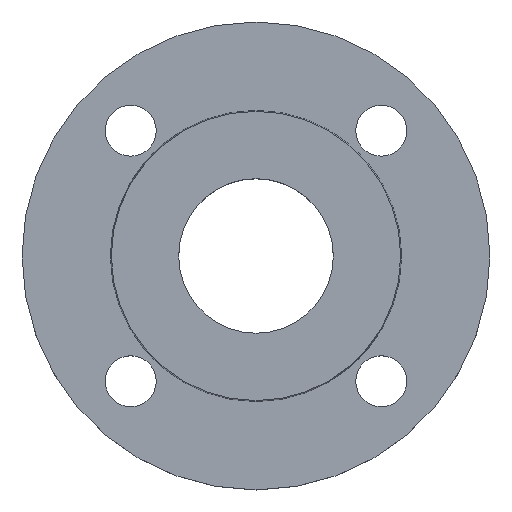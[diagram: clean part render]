
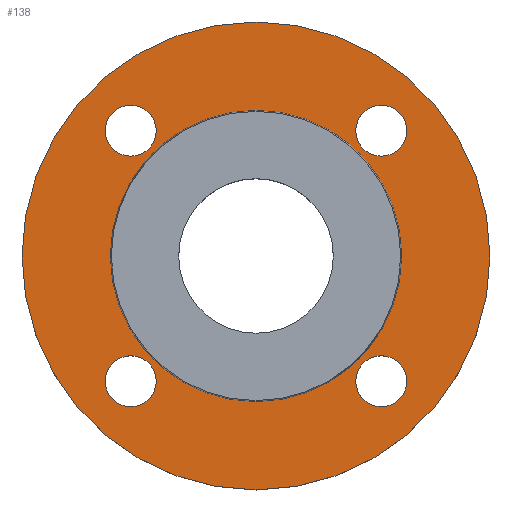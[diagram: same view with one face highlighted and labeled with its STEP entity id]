
A CAD part, top view. The second image highlights one B-rep face of the part: STEP entity #138.
In plain terms, the highlighted planar face has unit normal (0, 0, 1).
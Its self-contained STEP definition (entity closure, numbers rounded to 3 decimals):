
#13 = EDGE_CURVE ( 'NONE', #301, #689, #436, .T. ) ;
#36 = CIRCLE ( 'NONE', #40, 9. ) ;
#40 = AXIS2_PLACEMENT_3D ( 'NONE', #555, #553, #552 ) ;
#50 = DIRECTION ( 'NONE',  ( 0., 0., -1. ) ) ;
#54 = EDGE_CURVE ( 'NONE', #715, #707, #36, .T. ) ;
#90 = CIRCLE ( 'NONE', #362, 82.5 ) ;
#91 = EDGE_CURVE ( 'NONE', #757, #679, #90, .T. ) ;
#112 = DIRECTION ( 'NONE',  ( 1., 0., 0. ) ) ;
#113 = DIRECTION ( 'NONE',  ( 0., 0., -1. ) ) ;
#115 = CARTESIAN_POINT ( 'NONE',  ( -44.194, 44.194, -2. ) ) ;
#116 = AXIS2_PLACEMENT_3D ( 'NONE', #524, #523, #522 ) ;
#132 = CIRCLE ( 'NONE', #136, 9. ) ;
#136 = AXIS2_PLACEMENT_3D ( 'NONE', #509, #508, #507 ) ;
#138 = ADVANCED_FACE ( 'NONE', ( #533, #532, #531, #530, #529, #528 ), #525, .T. ) ;
#145 = EDGE_CURVE ( 'NONE', #707, #715, #132, .T. ) ;
#152 = CIRCLE ( 'NONE', #153, 9. ) ;
#153 = AXIS2_PLACEMENT_3D ( 'NONE', #498, #494, #492 ) ;
#159 = DIRECTION ( 'NONE',  ( 1., 0., 0. ) ) ;
#160 = DIRECTION ( 'NONE',  ( 0., 0., -1. ) ) ;
#161 = CARTESIAN_POINT ( 'NONE',  ( -44.194, -44.194, -2. ) ) ;
#169 = EDGE_CURVE ( 'NONE', #299, #681, #152, .T. ) ;
#201 = DIRECTION ( 'NONE',  ( 1., 0., 0. ) ) ;
#202 = DIRECTION ( 'NONE',  ( 0., 0., -1. ) ) ;
#205 = CARTESIAN_POINT ( 'NONE',  ( 44.194, -44.194, -2. ) ) ;
#208 = CIRCLE ( 'NONE', #211, 9. ) ;
#211 = AXIS2_PLACEMENT_3D ( 'NONE', #414, #411, #408 ) ;
#220 = DIRECTION ( 'NONE',  ( -1., 0., 0. ) ) ;
#221 = DIRECTION ( 'NONE',  ( 0., 0., -1. ) ) ;
#222 = CIRCLE ( 'NONE', #225, 51.353 ) ;
#223 = CARTESIAN_POINT ( 'NONE',  ( 0., 0., -2. ) ) ;
#225 = AXIS2_PLACEMENT_3D ( 'NONE', #223, #221, #220 ) ;
#236 = CIRCLE ( 'NONE', #238, 9. ) ;
#238 = AXIS2_PLACEMENT_3D ( 'NONE', #205, #202, #201 ) ;
#251 = EDGE_CURVE ( 'NONE', #758, #644, #208, .T. ) ;
#258 = AXIS2_PLACEMENT_3D ( 'NONE', #161, #160, #159 ) ;
#273 = CIRCLE ( 'NONE', #276, 9. ) ;
#276 = AXIS2_PLACEMENT_3D ( 'NONE', #115, #113, #112 ) ;
#287 = VERTEX_POINT ( 'NONE', #407 ) ;
#291 = VERTEX_POINT ( 'NONE', #402 ) ;
#299 = VERTEX_POINT ( 'NONE', #397 ) ;
#301 = VERTEX_POINT ( 'NONE', #396 ) ;
#303 = ORIENTED_EDGE ( 'NONE', *, *, #13, .T. ) ;
#349 = CARTESIAN_POINT ( 'NONE',  ( -44.194, 44.194, -2. ) ) ;
#361 = CIRCLE ( 'NONE', #258, 9. ) ;
#362 = AXIS2_PLACEMENT_3D ( 'NONE', #548, #547, #546 ) ;
#363 = DIRECTION ( 'NONE',  ( -1., 0., 0. ) ) ;
#379 = CIRCLE ( 'NONE', #382, 9. ) ;
#382 = AXIS2_PLACEMENT_3D ( 'NONE', #349, #50, #554 ) ;
#396 = CARTESIAN_POINT ( 'NONE',  ( -51.353, 0., -2. ) ) ;
#397 = CARTESIAN_POINT ( 'NONE',  ( 35.194, -44.194, -2. ) ) ;
#402 = CARTESIAN_POINT ( 'NONE',  ( -35.194, 44.194, -2. ) ) ;
#405 = EDGE_CURVE ( 'NONE', #689, #301, #222, .T. ) ;
#407 = CARTESIAN_POINT ( 'NONE',  ( -53.194, 44.194, -2. ) ) ;
#408 = DIRECTION ( 'NONE',  ( 1., 0., 0. ) ) ;
#411 = DIRECTION ( 'NONE',  ( 0., 0., -1. ) ) ;
#412 = EDGE_CURVE ( 'NONE', #681, #299, #236, .T. ) ;
#414 = CARTESIAN_POINT ( 'NONE',  ( -44.194, -44.194, -2. ) ) ;
#428 = CIRCLE ( 'NONE', #434, 82.5 ) ;
#434 = AXIS2_PLACEMENT_3D ( 'NONE', #476, #461, #363 ) ;
#436 = CIRCLE ( 'NONE', #446, 51.353 ) ;
#446 = AXIS2_PLACEMENT_3D ( 'NONE', #575, #574, #573 ) ;
#455 = EDGE_CURVE ( 'NONE', #644, #758, #361, .T. ) ;
#461 = DIRECTION ( 'NONE',  ( 0., 0., -1. ) ) ;
#476 = CARTESIAN_POINT ( 'NONE',  ( 0., 0., -2. ) ) ;
#483 = EDGE_CURVE ( 'NONE', #291, #287, #273, .T. ) ;
#492 = DIRECTION ( 'NONE',  ( 1., 0., 0. ) ) ;
#494 = DIRECTION ( 'NONE',  ( 0., 0., -1. ) ) ;
#498 = CARTESIAN_POINT ( 'NONE',  ( 44.194, -44.194, -2. ) ) ;
#507 = DIRECTION ( 'NONE',  ( 1., 0., 0. ) ) ;
#508 = DIRECTION ( 'NONE',  ( 0., 0., -1. ) ) ;
#509 = CARTESIAN_POINT ( 'NONE',  ( 44.194, 44.194, -2. ) ) ;
#522 = DIRECTION ( 'NONE',  ( 1., 0., 0. ) ) ;
#523 = DIRECTION ( 'NONE',  ( 0., 0., 1. ) ) ;
#524 = CARTESIAN_POINT ( 'NONE',  ( 51.353, 0., -2. ) ) ;
#525 = PLANE ( 'NONE',  #116 ) ;
#528 = FACE_OUTER_BOUND ( 'NONE', #663, .T. ) ;
#529 = FACE_BOUND ( 'NONE', #659, .T. ) ;
#530 = FACE_BOUND ( 'NONE', #677, .T. ) ;
#531 = FACE_BOUND ( 'NONE', #607, .T. ) ;
#532 = FACE_BOUND ( 'NONE', #652, .T. ) ;
#533 = FACE_BOUND ( 'NONE', #658, .T. ) ;
#546 = DIRECTION ( 'NONE',  ( -1., 0., 0. ) ) ;
#547 = DIRECTION ( 'NONE',  ( 0., 0., -1. ) ) ;
#548 = CARTESIAN_POINT ( 'NONE',  ( 0., 0., -2. ) ) ;
#552 = DIRECTION ( 'NONE',  ( 1., 0., 0. ) ) ;
#553 = DIRECTION ( 'NONE',  ( 0., 0., -1. ) ) ;
#554 = DIRECTION ( 'NONE',  ( 1., 0., 0. ) ) ;
#555 = CARTESIAN_POINT ( 'NONE',  ( 44.194, 44.194, -2. ) ) ;
#573 = DIRECTION ( 'NONE',  ( -1., 0., 0. ) ) ;
#574 = DIRECTION ( 'NONE',  ( 0., 0., -1. ) ) ;
#575 = CARTESIAN_POINT ( 'NONE',  ( 0., 0., -2. ) ) ;
#607 = EDGE_LOOP ( 'NONE', ( #743, #740 ) ) ;
#633 = ORIENTED_EDGE ( 'NONE', *, *, #91, .F. ) ;
#634 = ORIENTED_EDGE ( 'NONE', *, *, #824, .F. ) ;
#641 = EDGE_CURVE ( 'NONE', #287, #291, #379, .T. ) ;
#644 = VERTEX_POINT ( 'NONE', #751 ) ;
#652 = EDGE_LOOP ( 'NONE', ( #802, #755 ) ) ;
#658 = EDGE_LOOP ( 'NONE', ( #748, #774 ) ) ;
#659 = EDGE_LOOP ( 'NONE', ( #303, #783 ) ) ;
#663 = EDGE_LOOP ( 'NONE', ( #634, #633 ) ) ;
#677 = EDGE_LOOP ( 'NONE', ( #799, #807 ) ) ;
#679 = VERTEX_POINT ( 'NONE', #795 ) ;
#681 = VERTEX_POINT ( 'NONE', #779 ) ;
#682 = CARTESIAN_POINT ( 'NONE',  ( -82.5, 0., -2. ) ) ;
#684 = CARTESIAN_POINT ( 'NONE',  ( -53.194, -44.194, -2. ) ) ;
#689 = VERTEX_POINT ( 'NONE', #788 ) ;
#707 = VERTEX_POINT ( 'NONE', #741 ) ;
#715 = VERTEX_POINT ( 'NONE', #742 ) ;
#740 = ORIENTED_EDGE ( 'NONE', *, *, #641, .T. ) ;
#741 = CARTESIAN_POINT ( 'NONE',  ( 53.194, 44.194, -2. ) ) ;
#742 = CARTESIAN_POINT ( 'NONE',  ( 35.194, 44.194, -2. ) ) ;
#743 = ORIENTED_EDGE ( 'NONE', *, *, #483, .T. ) ;
#748 = ORIENTED_EDGE ( 'NONE', *, *, #412, .T. ) ;
#751 = CARTESIAN_POINT ( 'NONE',  ( -35.194, -44.194, -2. ) ) ;
#755 = ORIENTED_EDGE ( 'NONE', *, *, #251, .T. ) ;
#757 = VERTEX_POINT ( 'NONE', #682 ) ;
#758 = VERTEX_POINT ( 'NONE', #684 ) ;
#774 = ORIENTED_EDGE ( 'NONE', *, *, #169, .T. ) ;
#779 = CARTESIAN_POINT ( 'NONE',  ( 53.194, -44.194, -2. ) ) ;
#783 = ORIENTED_EDGE ( 'NONE', *, *, #405, .T. ) ;
#788 = CARTESIAN_POINT ( 'NONE',  ( 51.353, 0., -2. ) ) ;
#795 = CARTESIAN_POINT ( 'NONE',  ( 82.5, 0., -2. ) ) ;
#799 = ORIENTED_EDGE ( 'NONE', *, *, #145, .T. ) ;
#802 = ORIENTED_EDGE ( 'NONE', *, *, #455, .T. ) ;
#807 = ORIENTED_EDGE ( 'NONE', *, *, #54, .T. ) ;
#824 = EDGE_CURVE ( 'NONE', #679, #757, #428, .T. ) ;
